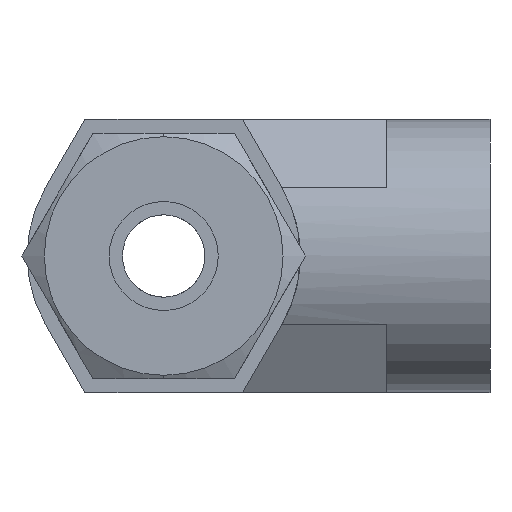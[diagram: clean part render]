
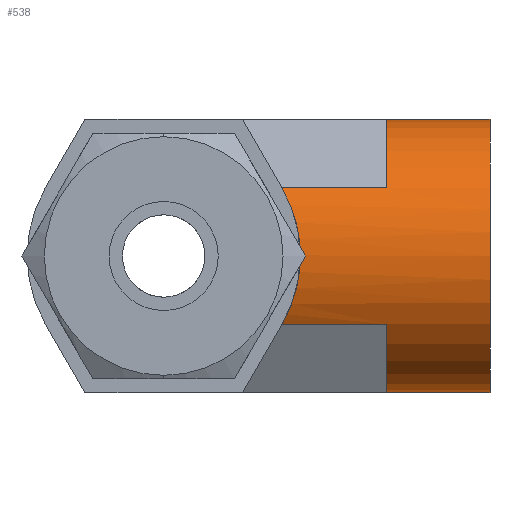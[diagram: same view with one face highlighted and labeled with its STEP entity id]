
A CAD part, left-side view. The second image highlights one B-rep face of the part: STEP entity #538.
In plain terms, the highlighted cylindrical face has radius 7.95 mm (diameter 15.9 mm), a partial arc.
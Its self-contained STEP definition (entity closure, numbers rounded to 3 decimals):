
#10 = VERTEX_POINT ( 'NONE', #853 ) ;
#19 = EDGE_CURVE ( 'NONE', #768, #10, #841, .T. ) ;
#72 = VERTEX_POINT ( 'NONE', #974 ) ;
#88 = VERTEX_POINT ( 'NONE', #997 ) ;
#89 = EDGE_CURVE ( 'NONE', #88, #145, #996, .T. ) ;
#96 = VERTEX_POINT ( 'NONE', #1048 ) ;
#97 = EDGE_CURVE ( 'NONE', #88, #96, #1047, .T. ) ;
#103 = EDGE_CURVE ( 'NONE', #10, #72, #1034, .T. ) ;
#144 = EDGE_CURVE ( 'NONE', #149, #145, #1157, .T. ) ;
#145 = VERTEX_POINT ( 'NONE', #1153 ) ;
#149 = VERTEX_POINT ( 'NONE', #1147 ) ;
#150 = VERTEX_POINT ( 'NONE', #1201 ) ;
#227 = EDGE_CURVE ( 'NONE', #150, #768, #1340, .T. ) ;
#522 = EDGE_CURVE ( 'NONE', #72, #96, #1970, .T. ) ;
#523 = ORIENTED_EDGE ( 'NONE', *, *, #97, .F. ) ;
#524 = ORIENTED_EDGE ( 'NONE', *, *, #89, .T. ) ;
#538 = ADVANCED_FACE ( 'NONE', ( #1996 ), #1994, .T. ) ;
#539 = EDGE_LOOP ( 'NONE', ( #540, #541, #543, #544, #545, #603, #523, #524 ) ) ;
#540 = ORIENTED_EDGE ( 'NONE', *, *, #144, .F. ) ;
#541 = ORIENTED_EDGE ( 'NONE', *, *, #542, .F. ) ;
#542 = EDGE_CURVE ( 'NONE', #150, #149, #1990, .T. ) ;
#543 = ORIENTED_EDGE ( 'NONE', *, *, #227, .T. ) ;
#544 = ORIENTED_EDGE ( 'NONE', *, *, #19, .T. ) ;
#545 = ORIENTED_EDGE ( 'NONE', *, *, #103, .T. ) ;
#603 = ORIENTED_EDGE ( 'NONE', *, *, #522, .T. ) ;
#768 = VERTEX_POINT ( 'NONE', #2374 ) ;
#837 = DIRECTION ( 'NONE',  ( 0., 0., -1. ) ) ;
#838 = DIRECTION ( 'NONE',  ( 0., -1., 0. ) ) ;
#839 = CARTESIAN_POINT ( 'NONE',  ( 0., -13., 0. ) ) ;
#840 = AXIS2_PLACEMENT_3D ( 'NONE', #839, #838, #837 ) ;
#841 = CIRCLE ( 'NONE', #840, 7.95 ) ;
#853 = CARTESIAN_POINT ( 'NONE',  ( -6.885, -13., 3.975 ) ) ;
#974 = CARTESIAN_POINT ( 'NONE',  ( -6.885, -6.885, 3.975 ) ) ;
#992 = DIRECTION ( 'NONE',  ( 0., 0., -1. ) ) ;
#993 = DIRECTION ( 'NONE',  ( 0., -1., 0. ) ) ;
#994 = CARTESIAN_POINT ( 'NONE',  ( 0., -13., 0. ) ) ;
#995 = AXIS2_PLACEMENT_3D ( 'NONE', #994, #993, #992 ) ;
#996 = CIRCLE ( 'NONE', #995, 7.95 ) ;
#997 = CARTESIAN_POINT ( 'NONE',  ( -6.885, -13., -3.975 ) ) ;
#1028 = DIRECTION ( 'NONE',  ( 0., 1., 0. ) ) ;
#1029 = VECTOR ( 'NONE', #1028, 1000. ) ;
#1030 = CARTESIAN_POINT ( 'NONE',  ( -6.885, -13., 3.975 ) ) ;
#1034 = LINE ( 'NONE', #1030, #1029 ) ;
#1044 = DIRECTION ( 'NONE',  ( 0., 1., 0. ) ) ;
#1045 = VECTOR ( 'NONE', #1044, 1000. ) ;
#1046 = CARTESIAN_POINT ( 'NONE',  ( -6.885, -13., -3.975 ) ) ;
#1047 = LINE ( 'NONE', #1046, #1045 ) ;
#1048 = CARTESIAN_POINT ( 'NONE',  ( -6.885, -6.885, -3.975 ) ) ;
#1147 = CARTESIAN_POINT ( 'NONE',  ( 0., -19., -7.95 ) ) ;
#1153 = CARTESIAN_POINT ( 'NONE',  ( 0., -13., -7.95 ) ) ;
#1154 = DIRECTION ( 'NONE',  ( 0., 1., 0. ) ) ;
#1155 = VECTOR ( 'NONE', #1154, 1000. ) ;
#1156 = CARTESIAN_POINT ( 'NONE',  ( 0., -13., -7.95 ) ) ;
#1157 = LINE ( 'NONE', #1156, #1155 ) ;
#1201 = CARTESIAN_POINT ( 'NONE',  ( 0., -19., 7.95 ) ) ;
#1337 = DIRECTION ( 'NONE',  ( 0., 1., 0. ) ) ;
#1338 = VECTOR ( 'NONE', #1337, 1000. ) ;
#1339 = CARTESIAN_POINT ( 'NONE',  ( 0., -13., 7.95 ) ) ;
#1340 = LINE ( 'NONE', #1339, #1338 ) ;
#1966 = CARTESIAN_POINT ( 'NONE',  ( -6.885, -6.885, -3.975 ) ) ;
#1967 = CARTESIAN_POINT ( 'NONE',  ( -8.34, -8.34, -1.455 ) ) ;
#1968 = CARTESIAN_POINT ( 'NONE',  ( -8.34, -8.34, 1.455 ) ) ;
#1969 = CARTESIAN_POINT ( 'NONE',  ( -6.885, -6.885, 3.975 ) ) ;
#1970 =( BOUNDED_CURVE ( )  B_SPLINE_CURVE ( 3, ( #1969, #1968, #1967, #1966 ),
 .UNSPECIFIED., .F., .F. ) 
 B_SPLINE_CURVE_WITH_KNOTS ( ( 4, 4 ),
 ( 2.618, 3.665 ),
 .UNSPECIFIED. ) 
 CURVE ( )  GEOMETRIC_REPRESENTATION_ITEM ( )  RATIONAL_B_SPLINE_CURVE ( ( 1., 0.911, 0.911, 1. ) ) 
 REPRESENTATION_ITEM ( '' )  );
#1986 = DIRECTION ( 'NONE',  ( 0., 0., -1. ) ) ;
#1987 = DIRECTION ( 'NONE',  ( 0., -1., 0. ) ) ;
#1988 = CARTESIAN_POINT ( 'NONE',  ( 0., -19., 0. ) ) ;
#1989 = AXIS2_PLACEMENT_3D ( 'NONE', #1988, #1987, #1986 ) ;
#1990 = CIRCLE ( 'NONE', #1989, 7.95 ) ;
#1991 = DIRECTION ( 'NONE',  ( 0., 0., 1. ) ) ;
#1992 = DIRECTION ( 'NONE',  ( 0., 1., 0. ) ) ;
#1993 = AXIS2_PLACEMENT_3D ( 'NONE', #1995, #1992, #1991 ) ;
#1994 = CYLINDRICAL_SURFACE ( 'NONE', #1993, 7.95 ) ;
#1995 = CARTESIAN_POINT ( 'NONE',  ( 0., -13., 0. ) ) ;
#1996 = FACE_OUTER_BOUND ( 'NONE', #539, .T. ) ;
#2374 = CARTESIAN_POINT ( 'NONE',  ( 0., -13., 7.95 ) ) ;
